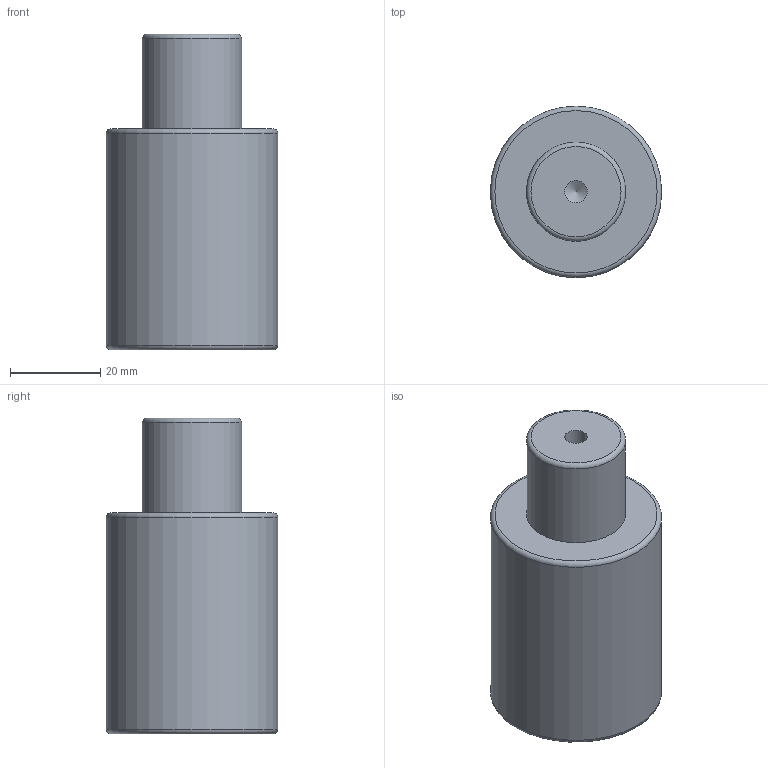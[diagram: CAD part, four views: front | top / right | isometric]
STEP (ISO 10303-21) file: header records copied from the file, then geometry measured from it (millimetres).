
FILE_DESCRIPTION(/* description */ (''),/* implementation_level */ '2;1');
FILE_NAME(/* name */ 'NV5-SMLX.38x20.stp',/* time_stamp */ '2018-08-31T16:08:36+02:00',/* author */ (''),/* organization */ (''),/* preprocessor_version */ 'ST-DEVELOPER v16',/* originating_system */ 'SIEMENS PLM Software NX 10.0',/* authorisation */ '');
FILE_SCHEMA (('AUTOMOTIVE_DESIGN { 1 0 10303 214 3 1 1 1 }'));
Length unit declared in the file: millimetre
Products named in the file (1): NV5-SMLX.38x20
Bounding box: 38 x 38 x 70 mm (x, y, z)
Volume: 62657.6 mm3; surface area: 9959.7 mm2
Topology: 1 solids, 1 shells, 12 faces, 24 edges, 15 vertices
Faces by surface type: cylinder 4, torus 3, plane 3, cone 2
Full cylindrical faces by diameter (mm): 5 x1, 6.8 x1, 22 x1, 38 x1
Entity records: 266 total; most frequent: DIRECTION 48, CARTESIAN_POINT 37, FACE_BOUND 24, AXIS2_PLACEMENT_3D 24, EDGE_LOOP 22, ORIENTED_EDGE 22, VERTEX_POINT 13, ADVANCED_FACE 12
